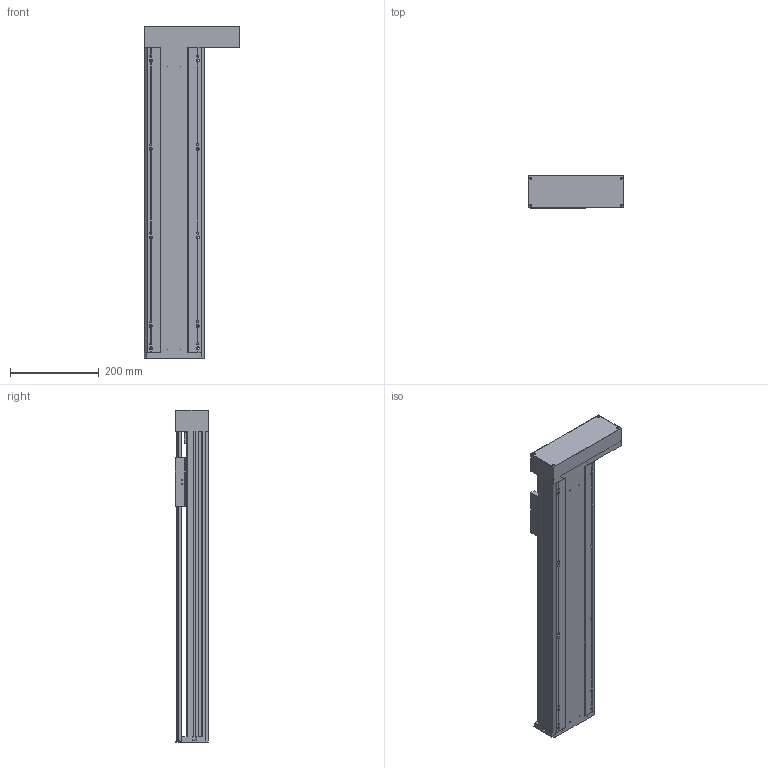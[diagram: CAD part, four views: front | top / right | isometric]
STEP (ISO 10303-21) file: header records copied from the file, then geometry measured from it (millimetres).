
FILE_DESCRIPTION(/* description */ (''),/* implementation_level */ '2;1');
FILE_NAME(/* name */ 'TKA136-FR-500_asm1_stp.stp',/* time_stamp */ '2016-09-08T14:58:37+08:00',/* author */ (''),/* organization */ (''),/* preprocessor_version */ 'ST-DEVELOPER v15',/* originating_system */ 'SIEMENS PLM Software NX 8.5',/* authorisation */ '');
FILE_SCHEMA (('AUTOMOTIVE_DESIGN { 1 0 10303 214 3 1 1 1 }'));
Length unit declared in the file: millimetre
Products named in the file (3): 100-02; 100-01; TKA136-FR-500_asm1_stp
Assembly tree (2 placements, depth 2):
  TKA136-FR-500_asm1_stp
    100-01
    100-02
Bounding box: 216 x 75 x 750 mm (x, y, z)
Volume: 2449694.5 mm3; surface area: 955919.6 mm2
Topology: 2 solids, 12 shells, 881 faces, 2447 edges, 1588 vertices
Faces by surface type: plane 415, cylinder 413, cone 53
Full cylindrical faces by diameter (mm): 2.5 x4, 3 x2, 3.3 x15, 4 x4, 4.2 x14, 4.5 x26, 5 x14, 5.5 x26, 6.6 x14, 8 x20, 10 x9, 10.5 x10, 11 x4, 11.6 x1, 12 x9, 15 x3, 16 x5, 17 x1, 24 x5, 26 x1, 28 x1, 46 x2, 50 x1
Entity records: 29239 total; most frequent: CARTESIAN_POINT 7650, DIRECTION 4487, ORIENTED_EDGE 4178, EDGE_CURVE 2089, AXIS2_PLACEMENT_3D 1709, VERTEX_POINT 1499, EDGE_LOOP 1297, LINE 1069
